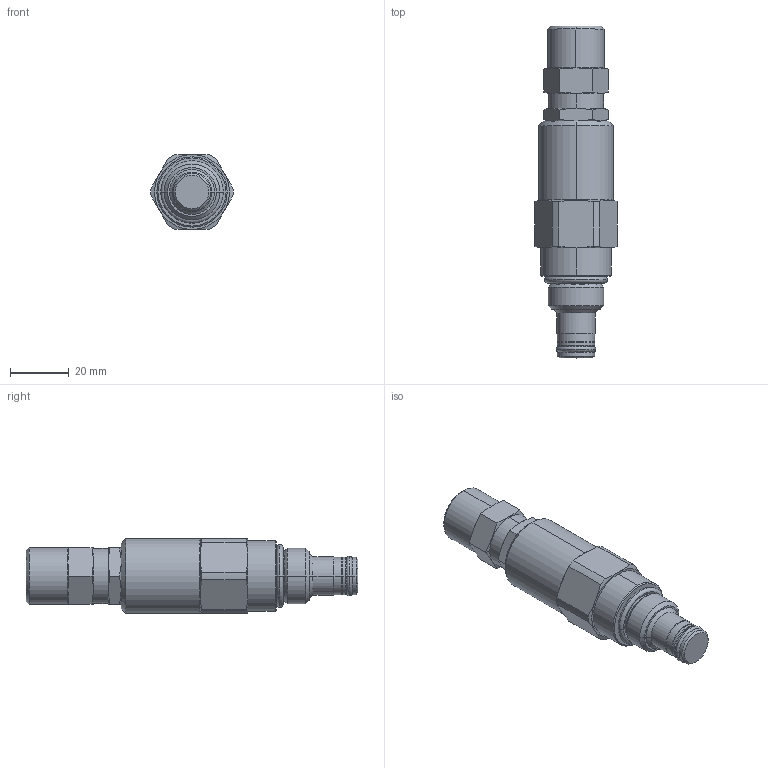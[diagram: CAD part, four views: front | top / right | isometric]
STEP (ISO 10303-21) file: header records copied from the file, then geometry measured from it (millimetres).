
FILE_DESCRIPTION((''),'2;1');
FILE_NAME('PRT0002','2009-03-21T',('JCS'),(''),'PRO/ENGINEER BY PARAMETRIC TECHNOLOGY CORPORATION, 2008510','PRO/ENGINEER BY PARAMETRIC TECHNOLOGY CORPORATION, 2008510','');
FILE_SCHEMA(('CONFIG_CONTROL_DESIGN'));
Length unit declared in the file: inch
Products named in the file (1): PRT0002
Bounding box: 27.94 x 112.66 x 25.4 mm (x, y, z)
Volume: 40902.2 mm3; surface area: 10205.2 mm2
Topology: 5 solids, 5 shells, 154 faces, 352 edges, 210 vertices
Faces by surface type: cone 58, cylinder 34, plane 30, torus 24, revolution 8
Entity records: 5006 total; most frequent: CARTESIAN_POINT 1488, DIRECTION 772, ORIENTED_EDGE 704, EDGE_CURVE 352, AXIS2_PLACEMENT_3D 340, VERTEX_POINT 210, CIRCLE 194, EDGE_LOOP 162
